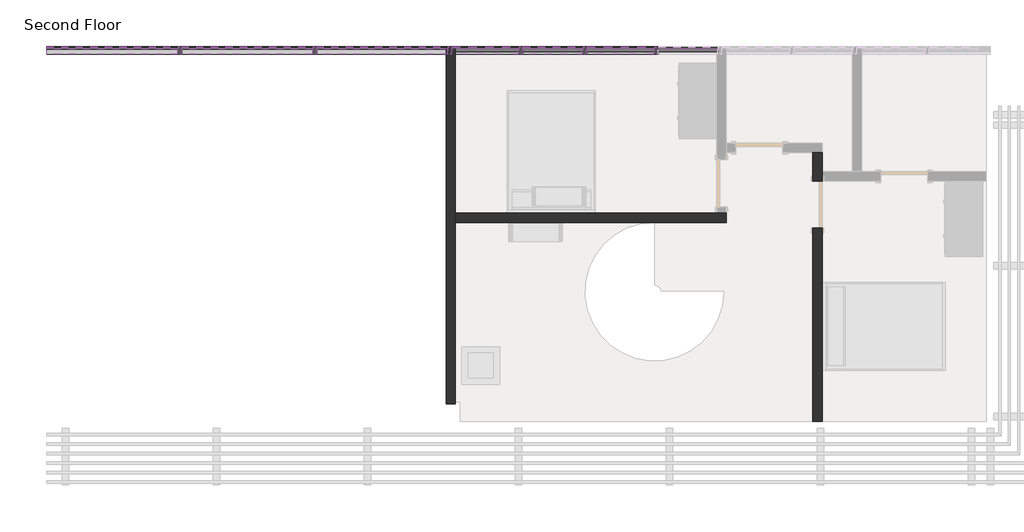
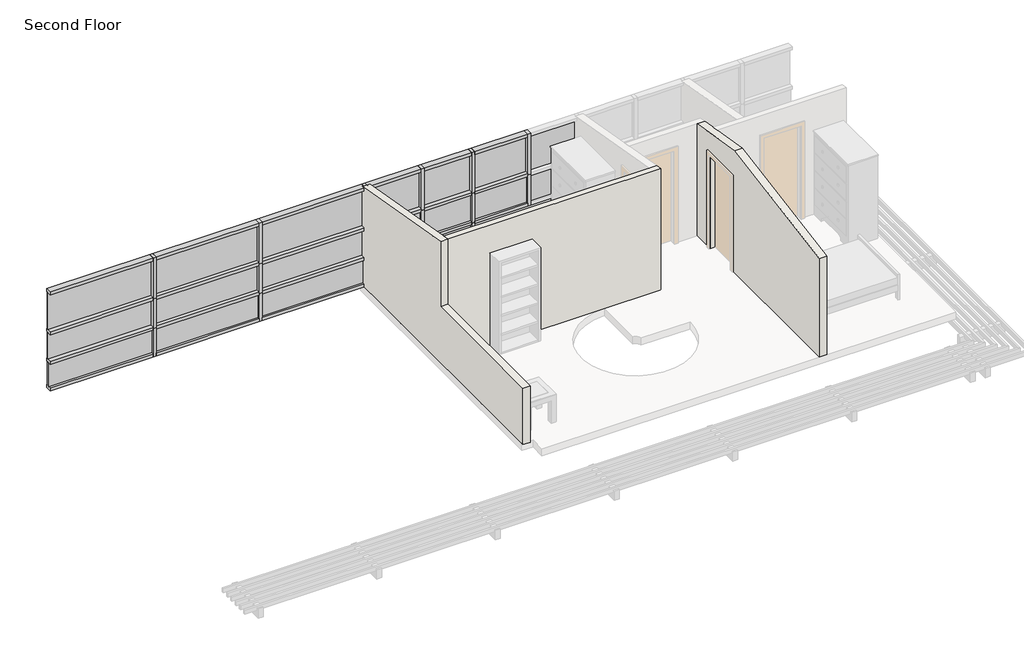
# One storey, part 1 of 2: 41 members, 19 plates, 3 walls.
"""IFC4 building model written with IfcOpenShell, lengths in millimetres."""

import ifcopenshell
import ifcopenshell.guid

model = None  # the IFC model being written
_history = None  # IfcOwnerHistory: only IFC2X3 demands one
_inside = {}  # id of a spatial element -> (the spatial element, [elements in it])
_under = {}  # id of a project, library or spatial element -> (it, [spatial elements below it])
_declared = {}  # id of a project -> (the project, [libraries it declares])
_typed = {}  # id of a type object -> (the type object, [elements of that type])
_made_of = {}  # id of a material, layer set ... -> (it, [elements and type objects made of it])


def new_model(schema):
    """Start an empty IFC model of exactly this schema.

    Asked for "IFC4X3", IfcOpenShell would pick the latest addendum, in which some entities
    have other attributes; the version numbers below select the first issue.
    IFC2X3 requires an IfcOwnerHistory on every rooted entity: one is made here for all.
    """
    global model, _history
    if schema == "IFC4X3":
        model = ifcopenshell.file(schema_version=(4, 3, 0, 0))
    else:
        model = ifcopenshell.file(schema=schema)
    _inside.clear()
    _under.clear()
    _declared.clear()
    _typed.clear()
    _made_of.clear()
    _history = None
    if model.schema == "IFC2X3":
        org = make("IfcOrganization", Name="unknown")
        user = make(
            "IfcPersonAndOrganization",
            ThePerson=make("IfcPerson", FamilyName="unknown"),
            TheOrganization=org,
        )
        app = make(
            "IfcApplication",
            ApplicationDeveloper=org,
            Version="unknown",
            ApplicationFullName="unknown",
            ApplicationIdentifier="unknown",
        )
        _history = make(
            "IfcOwnerHistory",
            OwningUser=user,
            OwningApplication=app,
            ChangeAction="ADDED",
            CreationDate=0,
        )
    return model


def make(cls, **values):
    """One entity of the class cls with the attributes given. An attribute that is None is left unset."""
    return model.create_entity(
        cls, **{name: value for name, value in values.items() if value is not None}
    )


def rooted(cls, **values):
    """An entity with a GlobalId (a new one), such as an element, a storey or a relation."""
    return make(cls, GlobalId=ifcopenshell.guid.new(), OwnerHistory=_history, **values)


def si_unit(unit_type, name, prefix=None):
    """IfcSIUnit, for example si_unit("LENGTHUNIT", "METRE", prefix="MILLI")."""
    return make("IfcSIUnit", UnitType=unit_type, Prefix=prefix, Name=name)


def assignment(units):
    """IfcUnitAssignment: the units of a project."""
    return None if units is None else make("IfcUnitAssignment", Units=units)


def point(xyz):
    """IfcCartesianPoint."""
    return None if xyz is None else make("IfcCartesianPoint", Coordinates=xyz)


def direction(xyz):
    """IfcDirection."""
    return None if xyz is None else make("IfcDirection", DirectionRatios=xyz)


def frame(location, z_axis=None, x_axis=None):
    """IfcAxis2Placement3D, a coordinate frame: its origin and axes. An axis left out is left unset."""
    return make(
        "IfcAxis2Placement3D",
        Location=point(location),
        Axis=direction(z_axis),
        RefDirection=direction(x_axis),
    )


def origin():
    """The frame at (0, 0, 0) with its axes left unset."""
    return frame((0.0, 0.0, 0.0))


def origin_with_axes():
    """The frame at (0, 0, 0) with the z axis (0, 0, 1) and the x axis (1, 0, 0) written out."""
    return frame((0.0, 0.0, 0.0), z_axis=(0.0, 0.0, 1.0), x_axis=(1.0, 0.0, 0.0))


def place(relative_to, where):
    """IfcLocalPlacement: puts the frame where relative to a parent placement (None: the world)."""
    return make(
        "IfcLocalPlacement", PlacementRelTo=relative_to, RelativePlacement=where
    )


def context(
    kind, dimensions, precision=None, world=None, true_north=None, identifier=None
):
    """IfcGeometricRepresentationContext, for example the 3D "Model" context."""
    return make(
        "IfcGeometricRepresentationContext",
        ContextIdentifier=identifier,
        ContextType=kind,
        CoordinateSpaceDimension=dimensions,
        Precision=precision,
        WorldCoordinateSystem=world,
        TrueNorth=true_north,
    )


def project(units=None, contexts=None):
    """IfcProject with its units and contexts."""
    return rooted(
        "IfcProject",
        Name="project",
        RepresentationContexts=contexts,
        UnitsInContext=assignment(units),
    )


def spatial(cls, under=None, at=None, **own):
    """A site, building, storey or space (cls), placed at a placement, below another one or the project."""
    s = rooted(cls, ObjectPlacement=at, **own)
    if under is not None:
        _under.setdefault(under.id(), (under, []))[1].append(s)
    return s


def polyline(points):
    """IfcPolyline through the points."""
    return make("IfcPolyline", Points=[point(p) for p in points])


def outline(outer, holes=None, kind="AREA"):
    """IfcArbitraryClosedProfileDef: a profile drawn as a closed curve; with holes, ...WithVoids."""
    if holes is None:
        return make("IfcArbitraryClosedProfileDef", ProfileType=kind, OuterCurve=outer)
    return make(
        "IfcArbitraryProfileDefWithVoids",
        ProfileType=kind,
        OuterCurve=outer,
        InnerCurves=holes,
    )


def extrude(swept, where, along, depth):
    """IfcExtrudedAreaSolid: the profile swept, set in the frame where, extruded along a direction by depth."""
    return make(
        "IfcExtrudedAreaSolid",
        SweptArea=swept,
        Position=where,
        ExtrudedDirection=direction(along),
        Depth=depth,
    )


def faces_of(points, faces, orient=None, outer=None):
    """IfcFace entities. A face is a list of loops; a loop is a list of indices into points, from 0.

    orient and outer hold one flag for each loop. By default every Orientation is true, the
    first loop of a face is its IfcFaceOuterBound and the others are IfcFaceBound.
    """
    made = []
    for i, loops in enumerate(faces):
        bounds = []
        for j, loop in enumerate(loops):
            is_outer = j == 0 if outer is None else outer[i][j]
            bounds.append(
                make(
                    "IfcFaceOuterBound" if is_outer else "IfcFaceBound",
                    Bound=make("IfcPolyLoop", Polygon=[points[k] for k in loop]),
                    Orientation=True if orient is None else orient[i][j],
                )
            )
        made.append(make("IfcFace", Bounds=bounds))
    return made


def faceted_brep(points, faces, orient=None, outer=None, voids=None):
    """IfcFacetedBrep: a solid bounded by flat faces; with voids (closed shells), ...WithVoids."""
    shared = [point(p) for p in points]
    hull = make("IfcClosedShell", CfsFaces=faces_of(shared, faces, orient, outer))
    if voids is None:
        return make("IfcFacetedBrep", Outer=hull)
    return make(
        "IfcFacetedBrepWithVoids",
        Outer=hull,
        Voids=[
            make(cls, CfsFaces=faces_of(shared, fs, o, b)) for cls, fs, o, b in voids
        ],
    )


def shape(context_of_items, identifier, shape_type, items):
    """IfcShapeRepresentation: the items that make up one representation, for example the "Body"."""
    return make(
        "IfcShapeRepresentation",
        ContextOfItems=context_of_items,
        RepresentationIdentifier=identifier,
        RepresentationType=shape_type,
        Items=items,
    )


def source(mapping_origin, context_of_items, identifier, shape_type, items):
    """IfcRepresentationMap: a shape defined once, which mapped items show again and again."""
    return make(
        "IfcRepresentationMap",
        MappingOrigin=mapping_origin,
        MappedRepresentation=shape(context_of_items, identifier, shape_type, items),
    )


def transform(
    local_origin,
    x_axis=None,
    y_axis=None,
    z_axis=None,
    scale=None,
    scale2=None,
    scale3=None,
    uniform=True,
):
    """IfcCartesianTransformationOperator3D, or its non-uniform kind. x_axis, y_axis, z_axis: its Axis1, 2, 3."""
    if uniform:
        return make(
            "IfcCartesianTransformationOperator3D",
            Axis1=direction(x_axis),
            Axis2=direction(y_axis),
            LocalOrigin=point(local_origin),
            Scale=scale,
            Axis3=direction(z_axis),
        )
    return make(
        "IfcCartesianTransformationOperator3DnonUniform",
        Axis1=direction(x_axis),
        Axis2=direction(y_axis),
        LocalOrigin=point(local_origin),
        Scale=scale,
        Axis3=direction(z_axis),
        Scale2=scale2,
        Scale3=scale3,
    )


def mapped(mapping_source, mapping_target):
    """IfcMappedItem: shows the shape of a source again, moved by a transform."""
    return make(
        "IfcMappedItem", MappingSource=mapping_source, MappingTarget=mapping_target
    )


def made_of(thing, what):
    """Note that an element or type object is made of a material, layer set ...; save() writes the relation."""
    if what is not None:
        _made_of.setdefault(what.id(), (what, []))[1].append(thing)
    return thing


def element(
    cls,
    number,
    at=None,
    inside=None,
    cuts=None,
    type_object=None,
    material=None,
    context=None,
    identifier="Body",
    shape_type=None,
    held_by="IfcProductDefinitionShape",
    body=None,
    shapes=None,
    **own,
):
    """One element of the class cls, such as IfcWall. Its Tag is "e" and its number.

    at: its placement. inside: the storey or other place that contains it. cuts: it is an
    opening in that element (IfcRelVoidsElement). A single representation is given by context,
    identifier, shape_type and body (its items); several are given by shapes. held_by: the class
    of the entity that holds the representations. save() writes the other relations.
    """
    e = rooted(cls, Tag="e%d" % number, ObjectPlacement=at, **own)
    if body is not None:
        shapes = [shape(context, identifier, shape_type, body)]
    if shapes is not None:
        e.Representation = make(held_by, Representations=shapes)
    if inside is not None:
        _inside.setdefault(inside.id(), (inside, []))[1].append(e)
    if cuts is not None:
        rooted(
            "IfcRelVoidsElement", RelatingBuildingElement=cuts, RelatedOpeningElement=e
        )
    if type_object is not None:
        _typed.setdefault(type_object.id(), (type_object, []))[1].append(e)
    return made_of(e, material)


def aggregate(whole, parts):
    """IfcRelAggregates: a whole, such as a stair, and the parts it consists of."""
    return rooted("IfcRelAggregates", RelatingObject=whole, RelatedObjects=parts)


def save(model, path):
    """Write the relations noted so far, then the file.

    IfcRelAggregates (storeys below a building ...), IfcRelContainedInSpatialStructure (elements
    in a storey), IfcRelDefinesByType, IfcRelAssociatesMaterial and IfcRelDeclares: one each for
    every whole, place, type object, material and project.
    """
    for whole, parts in _under.values():
        aggregate(whole, parts)
    for where, things in _inside.values():
        rooted(
            "IfcRelContainedInSpatialStructure",
            RelatedElements=things,
            RelatingStructure=where,
        )
    for kind, things in _typed.values():
        rooted("IfcRelDefinesByType", RelatedObjects=things, RelatingType=kind)
    for what, things in _made_of.values():
        rooted("IfcRelAssociatesMaterial", RelatedObjects=things, RelatingMaterial=what)
    for by, libraries in _declared.values():
        rooted("IfcRelDeclares", RelatingContext=by, RelatedDefinitions=libraries)
    model.write(path)


def rectangular_mullion_rectangular_mullion_1_6e77e263(model_context):
    return source(origin(), model_context, "Body", "SweptSolid", [
        extrude(outline(polyline([(31.75, 63.5), (31.75, -63.5), (-31.75, -63.5), (-31.75, 63.5), (31.75, 63.5)])), frame((0.0, 0.0, -609.6), z_axis=(0.0, 0.0, 1.0), x_axis=(1.0, 0.0, 0.0)), (0.0, 0.0, 1.0), 609.6),
    ])


def rectangular_mullion_rectangular_mullion_1_51170729(model_context):
    return source(origin(), model_context, "Body", "SweptSolid", [
        extrude(outline(polyline([(31.75, 63.5), (31.75, -63.5), (-31.75, -63.5), (-31.75, 63.5), (31.75, 63.5)])), frame((0.0, 0.0, -641.35), z_axis=(0.0, 0.0, 1.0), x_axis=(1.0, 0.0, 0.0)), (0.0, 0.0, 1.0), 641.35),
    ])


def rectangular_mullion_rectangular_mullion_1_02de63bf(model_context):
    return source(origin(), model_context, "Body", "SweptSolid", [
        extrude(outline(polyline([(31.75, 63.5), (31.75, -63.5), (-31.75, -63.5), (-31.75, 63.5), (31.75, 63.5)])), frame((0.0, 0.0, -673.1), z_axis=(0.0, 0.0, 1.0), x_axis=(1.0, 0.0, 0.0)), (0.0, 0.0, 1.0), 673.1),
    ])


def rectangular_mullion_rectangular_mullion_1_16d8b8eb(model_context):
    return source(origin(), model_context, "Body", "SweptSolid", [
        extrude(outline(polyline([(31.75, 63.5), (31.75, -63.5), (-31.75, -63.5), (-31.75, 63.5), (31.75, 63.5)])), frame((0.0, 0.0, -1085.1812347), z_axis=(0.0, 0.0, 1.0), x_axis=(1.0, 0.0, 0.0)), (0.0, 0.0, 1.0), 1085.1812347),
    ])


def rectangular_mullion_rectangular_mullion_1_bd9471c7(model_context):
    return source(origin(), model_context, "Body", "SweptSolid", [
        extrude(outline(polyline([(31.75, 63.5), (31.75, -63.5), (-31.75, -63.5), (-31.75, 63.5), (31.75, 63.5)])), frame((0.0, 0.0, -968.2083536), z_axis=(0.0, 0.0, 1.0), x_axis=(1.0, 0.0, 0.0)), (0.0, 0.0, 1.0), 968.2083536),
    ])


def rectangular_mullion_rectangular_mullion_1_216b7e31(model_context):
    return source(origin(), model_context, "Body", "SweptSolid", [
        extrude(outline(polyline([(31.75, 63.5), (31.75, -63.5), (-31.75, -63.5), (-31.75, 63.5), (31.75, 63.5)])), frame((0.0, 0.0, -1092.8202178), z_axis=(0.0, 0.0, 1.0), x_axis=(1.0, 0.0, 0.0)), (0.0, 0.0, 1.0), 1092.8202178),
    ])


def rectangular_mullion_rectangular_mullion_1_ef30733b(model_context):
    return source(origin(), model_context, "Body", "SweptSolid", [
        extrude(outline(polyline([(0.0, 63.5), (0.0, -63.5), (-63.5, -63.5), (-63.5, 63.5), (0.0, 63.5)])), frame((0.0, 0.0, -2116.8895886), z_axis=(0.0, 0.0, 1.0), x_axis=(1.0, 0.0, 0.0)), (0.0, 0.0, 1.0), 2116.8895886),
    ])


def rectangular_mullion_rectangular_mullion_1_e4518843(model_context):
    return source(origin(), model_context, "Body", "SweptSolid", [
        extrude(outline(polyline([(0.0, 63.5), (0.0, -63.5), (-63.5, -63.5), (-63.5, 63.5), (0.0, 63.5)])), frame((0.0, 0.0, -2116.8895883), z_axis=(0.0, 0.0, 1.0), x_axis=(1.0, 0.0, 0.0)), (0.0, 0.0, 1.0), 2116.8895883),
    ])


def rectangular_mullion_rectangular_mullion_1_31188fa1(model_context):
    return source(origin(), model_context, "Body", "SweptSolid", [
        extrude(outline(polyline([(0.0, 63.5), (0.0, -63.5), (-63.5, -63.5), (-63.5, 63.5), (0.0, 63.5)])), frame((0.0, 0.0, -1116.9312347), z_axis=(0.0, 0.0, 1.0), x_axis=(1.0, 0.0, 0.0)), (0.0, 0.0, 1.0), 1116.9312347),
    ])


def rectangular_mullion_rectangular_mullion_1_6d278577(model_context):
    return source(origin(), model_context, "Body", "SweptSolid", [
        extrude(outline(polyline([(0.0, 63.5), (0.0, -63.5), (-63.5, -63.5), (-63.5, 63.5), (0.0, 63.5)])), frame((0.0, 0.0, -1124.5702178), z_axis=(0.0, 0.0, 1.0), x_axis=(1.0, 0.0, 0.0)), (0.0, 0.0, 1.0), 1124.5702178),
    ])


def rectangular_mullion_rectangular_mullion_1_6c981bfd(model_context):
    return source(origin(), model_context, "Body", "SweptSolid", [
        extrude(outline(polyline([(0.0, 63.5), (0.0, -63.5), (-63.5, -63.5), (-63.5, 63.5), (0.0, 63.5)])), frame((0.0, 0.0, -992.3193705), z_axis=(0.0, 0.0, 1.0), x_axis=(1.0, 0.0, 0.0)), (0.0, 0.0, 1.0), 992.3193705),
    ])


def rectangular_mullion_rectangular_mullion_1_10727e02(model_context):
    return source(origin(), model_context, "Body", "SweptSolid", [
        extrude(outline(polyline([(0.0, 63.5), (0.0, -63.5), (-63.5, -63.5), (-63.5, 63.5), (0.0, 63.5)])), frame((0.0, 0.0, -999.9583536), z_axis=(0.0, 0.0, 1.0), x_axis=(1.0, 0.0, 0.0)), (0.0, 0.0, 1.0), 999.9583536),
    ])


def rectangular_mullion_rectangular_mullion_1_3e036e6b(model_context):
    return source(origin(), model_context, "Body", "SweptSolid", [
        extrude(outline(polyline([(0.0, 63.5), (0.0, -63.5), (-63.5, -63.5), (-63.5, 63.5), (0.0, 63.5)])), frame((0.0, 0.0, -1085.1812347), z_axis=(0.0, 0.0, 1.0), x_axis=(1.0, 0.0, 0.0)), (0.0, 0.0, 1.0), 1085.1812347),
    ])


def rectangular_mullion_rectangular_mullion_1_4bdca6fb(model_context):
    return source(origin(), model_context, "Body", "SweptSolid", [
        extrude(outline(polyline([(0.0, 63.5), (0.0, -63.5), (-63.5, -63.5), (-63.5, 63.5), (0.0, 63.5)])), frame((0.0, 0.0, -968.2083536), z_axis=(0.0, 0.0, 1.0), x_axis=(1.0, 0.0, 0.0)), (0.0, 0.0, 1.0), 968.2083536),
    ])


def rectangular_mullion_rectangular_mullion_1_c00fc970(model_context):
    return source(origin(), model_context, "Body", "SweptSolid", [
        extrude(outline(polyline([(0.0, 63.5), (0.0, -63.5), (-63.5, -63.5), (-63.5, 63.5), (0.0, 63.5)])), frame((0.0, 0.0, -1092.8202178), z_axis=(0.0, 0.0, 1.0), x_axis=(1.0, 0.0, 0.0)), (0.0, 0.0, 1.0), 1092.8202178),
    ])


def rectangular_mullion_rectangular_mullion_1_eea3e301(model_context):
    return source(origin(), model_context, "Body", "SweptSolid", [
        extrude(outline(polyline([(31.75, 63.5), (31.75, -63.5), (-31.75, -63.5), (-31.75, 63.5), (31.75, 63.5)])), frame((0.0, 0.0, -2116.8895886), z_axis=(0.0, 0.0, 1.0), x_axis=(1.0, 0.0, 0.0)), (0.0, 0.0, 1.0), 2116.8895886),
    ])


def rectangular_mullion_rectangular_mullion_1_455339bc(model_context):
    return source(origin(), model_context, "Body", "SweptSolid", [
        extrude(outline(polyline([(31.75, 63.5), (31.75, -63.5), (-31.75, -63.5), (-31.75, 63.5), (31.75, 63.5)])), frame((0.0, 0.0, -2116.8895883), z_axis=(0.0, 0.0, 1.0), x_axis=(1.0, 0.0, 0.0)), (0.0, 0.0, 1.0), 2116.8895883),
    ])


def rectangular_mullion_rectangular_mullion_1_8e9d10e0(model_context):
    return source(origin(), model_context, "Body", "SweptSolid", [
        extrude(outline(polyline([(31.75, 63.5), (31.75, -63.5), (-31.75, -63.5), (-31.75, 63.5), (31.75, 63.5)])), frame((0.0, 0.0, -893.8467633), z_axis=(0.0, 0.0, 1.0), x_axis=(1.0, 0.0, 0.0)), (0.0, 0.0, 1.0), 893.8467633),
    ])


def system_panel_glazed_11a32600(model_context):
    return source(origin(), model_context, "Body", "SweptSolid", [
        extrude(outline(polyline([(1058.4447943, 19.05), (-1058.4447943, 19.05), (-1058.4447943, 44.45), (1058.4447943, 44.45), (1058.4447943, 19.05)])), origin_with_axes(), (0.0, 0.0, 1.0), 577.85),
    ])


def system_panel_glazed_48cb03e7(model_context):
    return source(origin(), model_context, "Body", "SweptSolid", [
        extrude(outline(polyline([(1058.4447943, 19.05), (-1058.4447943, 19.05), (-1058.4447943, 44.45), (1058.4447943, 44.45), (1058.4447943, 19.05)])), origin_with_axes(), (0.0, 0.0, 1.0), 798.5967633),
    ])


def system_panel_glazed_32ae429f(model_context):
    return source(origin(), model_context, "Body", "SweptSolid", [
        extrude(outline(polyline([(542.5906174, 19.05), (-542.5906174, 19.05), (-542.5906174, 44.45), (542.5906174, 44.45), (542.5906174, 19.05)])), origin_with_axes(), (0.0, 0.0, 1.0), 798.5967633),
    ])


def system_panel_glazed_22fd2b86(model_context):
    return source(origin(), model_context, "Body", "SweptSolid", [
        extrude(outline(polyline([(484.1041768, 19.05), (-484.1041768, 19.05), (-484.1041768, 44.45), (484.1041768, 44.45), (484.1041768, 19.05)])), origin_with_axes(), (0.0, 0.0, 1.0), 798.5967633),
    ])


def system_panel_glazed_0dba37f9(model_context):
    return source(origin(), model_context, "Body", "SweptSolid", [
        extrude(outline(polyline([(546.4101089, 19.05), (-546.4101089, 19.05), (-546.4101089, 44.45), (546.4101089, 44.45), (546.4101089, 19.05)])), origin_with_axes(), (0.0, 0.0, 1.0), 798.5967633),
    ])


def system_panel_glazed_d97c3899(model_context):
    return source(origin(), model_context, "Body", "SweptSolid", [
        extrude(outline(polyline([(480.2846853, 19.05), (-480.2846853, 19.05), (-480.2846853, 44.45), (480.2846853, 44.45), (480.2846853, 19.05)])), origin_with_axes(), (0.0, 0.0, 1.0), 798.5967633),
    ])


def system_panel_solid_black_d4f84b84(model_context):
    return source(origin(), model_context, "Body", "SweptSolid", [
        extrude(outline(polyline([(542.5906174, -19.05), (-542.5906174, -19.05), (-542.5906174, 44.45), (542.5906174, 44.45), (542.5906174, -19.05)])), origin_with_axes(), (0.0, 0.0, 1.0), 577.85),
    ])


def system_panel_solid_blue_a7f4d1c6(model_context):
    return source(origin(), model_context, "Body", "SweptSolid", [
        extrude(outline(polyline([(0.0, -1058.4447942), (0.0, 58.4864406), (0.0, 1058.4447942), (514.35, 1058.4447942), (514.35, 58.4864406), (514.35, -1058.4447942), (0.0, -1058.4447942)])), frame((0.0, -19.05, 0.0), z_axis=(0.0, 1.0, 0.0), x_axis=(0.0, 0.0, 1.0)), (0.0, 0.0, 1.0), 63.5),
    ])


def system_panel_solid_white_938f3899(model_context):
    return source(origin(), model_context, "Body", "SweptSolid", [
        extrude(outline(polyline([(1058.4447943, -19.05), (-1058.4447943, -19.05), (-1058.4447943, 44.45), (1058.4447943, 44.45), (1058.4447943, -19.05)])), origin_with_axes(), (0.0, 0.0, 1.0), 514.35),
    ])


def system_panel_solid_white_17433e69(model_context):
    return source(origin(), model_context, "Body", "SweptSolid", [
        extrude(outline(polyline([(0.0, -1058.4447942), (0.0, 66.1254237), (0.0, 1058.4447942), (514.35, 1058.4447942), (514.35, 66.1254237), (514.35, -1058.4447942), (0.0, -1058.4447942)])), frame((0.0, -19.05, 0.0), z_axis=(0.0, 1.0, 0.0), x_axis=(0.0, 0.0, 1.0)), (0.0, 0.0, 1.0), 63.5),
    ])


def system_panel_solid_white_50add86f(model_context):
    return source(origin(), model_context, "Body", "SweptSolid", [
        extrude(outline(polyline([(484.1041768, -19.05), (-484.1041768, -19.05), (-484.1041768, 44.45), (484.1041768, 44.45), (484.1041768, -19.05)])), origin_with_axes(), (0.0, 0.0, 1.0), 577.85),
    ])


def system_panel_solid_white_58560f43(model_context):
    return source(origin(), model_context, "Body", "SweptSolid", [
        extrude(outline(polyline([(546.4101089, -19.05), (-546.4101089, -19.05), (-546.4101089, 44.45), (546.4101089, 44.45), (546.4101089, -19.05)])), origin_with_axes(), (0.0, 0.0, 1.0), 577.85),
    ])


def system_panel_solid_white_36fd709e(model_context):
    return source(origin(), model_context, "Body", "SweptSolid", [
        extrude(outline(polyline([(480.2846853, -19.05), (-480.2846853, -19.05), (-480.2846853, 44.45), (480.2846853, 44.45), (480.2846853, -19.05)])), origin_with_axes(), (0.0, 0.0, 1.0), 577.85),
    ])


model = new_model("IFC4")

# Units and contexts
model_context = context("Model", 3, world=origin())
ifc_project = project(units=[si_unit("LENGTHUNIT", "METRE", prefix="MILLI")], contexts=[model_context])

# Site, building, storey
site = spatial("IfcSite", under=ifc_project)
building = spatial("IfcBuilding", under=site)
storey = spatial("IfcBuildingStorey", under=building, Name="Second Floor", Elevation=3657.6)

# Members
placement = place(None, origin())
rectangular_mullion_rectangular_mullion_1_shape = rectangular_mullion_rectangular_mullion_1_6e77e263(model_context)
element("IfcMember", 1, ObjectType="Rectangular Mullion : Rectangular Mullion 1", at=placement, inside=storey, context=model_context, shape_type="MappedRepresentation", body=[
    mapped(rectangular_mullion_rectangular_mullion_1_shape, transform((-4167.553004, 12132.8400612, 3657.6), x_axis=(1.0, 0.0, 0.0), y_axis=(0.0, -1.0, 0.0), z_axis=(0.0, 0.0, -1.0))),
])
element("IfcMember", 2, ObjectType="Rectangular Mullion : Rectangular Mullion 1", at=placement, inside=storey, context=model_context, shape_type="MappedRepresentation", body=[
    mapped(rectangular_mullion_rectangular_mullion_1_shape, transform((-1987.1634157, 12132.8400612, 3657.6), x_axis=(1.0, 0.0, 0.0), y_axis=(0.0, -1.0, 0.0), z_axis=(0.0, 0.0, -1.0))),
])
element("IfcMember", 3, ObjectType="Rectangular Mullion : Rectangular Mullion 1", at=placement, inside=storey, context=model_context, shape_type="MappedRepresentation", body=[
    mapped(rectangular_mullion_rectangular_mullion_1_shape, transform((-8528.3321807, 12132.8400612, 3657.6), x_axis=(1.0, 0.0, 0.0), y_axis=(0.0, -1.0, 0.0), z_axis=(0.0, 0.0, -1.0))),
])
element("IfcMember", 4, ObjectType="Rectangular Mullion : Rectangular Mullion 1", at=placement, inside=storey, context=model_context, shape_type="MappedRepresentation", body=[
    mapped(rectangular_mullion_rectangular_mullion_1_shape, transform((-6347.9425924, 12132.8400612, 3657.6), x_axis=(1.0, 0.0, 0.0), y_axis=(0.0, -1.0, 0.0), z_axis=(0.0, 0.0, -1.0))),
])
rectangular_mullion_rectangular_mullion_1_2_shape = rectangular_mullion_rectangular_mullion_1_51170729(model_context)
element("IfcMember", 5, ObjectType="Rectangular Mullion : Rectangular Mullion 1", at=placement, inside=storey, context=model_context, shape_type="MappedRepresentation", body=[
    mapped(rectangular_mullion_rectangular_mullion_1_2_shape, transform((-4167.553004, 12132.8400612, 4267.2), x_axis=(1.0, 0.0, 0.0), y_axis=(0.0, -1.0, 0.0), z_axis=(0.0, 0.0, -1.0))),
])
element("IfcMember", 6, ObjectType="Rectangular Mullion : Rectangular Mullion 1", at=placement, inside=storey, context=model_context, shape_type="MappedRepresentation", body=[
    mapped(rectangular_mullion_rectangular_mullion_1_2_shape, transform((-1987.1634157, 12132.8400612, 4267.2), x_axis=(1.0, 0.0, 0.0), y_axis=(0.0, -1.0, 0.0), z_axis=(0.0, 0.0, -1.0))),
])
element("IfcMember", 7, ObjectType="Rectangular Mullion : Rectangular Mullion 1", at=placement, inside=storey, context=model_context, shape_type="MappedRepresentation", body=[
    mapped(rectangular_mullion_rectangular_mullion_1_2_shape, transform((-8528.3321807, 12132.8400612, 4267.2), x_axis=(1.0, 0.0, 0.0), y_axis=(0.0, -1.0, 0.0), z_axis=(0.0, 0.0, -1.0))),
])
element("IfcMember", 8, ObjectType="Rectangular Mullion : Rectangular Mullion 1", at=placement, inside=storey, context=model_context, shape_type="MappedRepresentation", body=[
    mapped(rectangular_mullion_rectangular_mullion_1_2_shape, transform((-6347.9425924, 12132.8400612, 4267.2), x_axis=(1.0, 0.0, 0.0), y_axis=(0.0, -1.0, 0.0), z_axis=(0.0, 0.0, -1.0))),
])
rectangular_mullion_rectangular_mullion_1_3_shape = rectangular_mullion_rectangular_mullion_1_02de63bf(model_context)
element("IfcMember", 9, ObjectType="Rectangular Mullion : Rectangular Mullion 1", at=placement, inside=storey, context=model_context, shape_type="MappedRepresentation", body=[
    mapped(rectangular_mullion_rectangular_mullion_1_3_shape, transform((-3018.8717693, 12132.8400612, 4235.45), x_axis=(1.0, 0.0, 0.0), y_axis=(0.0, -1.0, 0.0), z_axis=(0.0, 0.0, -1.0))),
])
element("IfcMember", 10, ObjectType="Rectangular Mullion : Rectangular Mullion 1", at=placement, inside=storey, context=model_context, shape_type="MappedRepresentation", body=[
    mapped(rectangular_mullion_rectangular_mullion_1_3_shape, transform((-830.8431979, 12132.8400612, 4235.45), x_axis=(1.0, 0.0, 0.0), y_axis=(0.0, -1.0, 0.0), z_axis=(0.0, 0.0, -1.0))),
])
rectangular_mullion_rectangular_mullion_1_4_shape = rectangular_mullion_rectangular_mullion_1_16d8b8eb(model_context)
element("IfcMember", 11, ObjectType="Rectangular Mullion : Rectangular Mullion 1", at=placement, inside=storey, context=model_context, shape_type="MappedRepresentation", body=[
    mapped(rectangular_mullion_rectangular_mullion_1_4_shape, transform((-3050.6217693, 12132.8400612, 4267.2), x_axis=(0.0, 0.0, 1.0), y_axis=(0.0, -1.0, 0.0), z_axis=(1.0, 0.0, 0.0))),
])
element("IfcMember", 12, ObjectType="Rectangular Mullion : Rectangular Mullion 1", at=placement, inside=storey, context=model_context, shape_type="MappedRepresentation", body=[
    mapped(rectangular_mullion_rectangular_mullion_1_4_shape, transform((-3050.6217693, 12132.8400612, 4908.55), x_axis=(0.0, 0.0, 1.0), y_axis=(0.0, -1.0, 0.0), z_axis=(1.0, 0.0, 0.0))),
])
rectangular_mullion_rectangular_mullion_1_5_shape = rectangular_mullion_rectangular_mullion_1_bd9471c7(model_context)
element("IfcMember", 13, ObjectType="Rectangular Mullion : Rectangular Mullion 1", at=placement, inside=storey, context=model_context, shape_type="MappedRepresentation", body=[
    mapped(rectangular_mullion_rectangular_mullion_1_5_shape, transform((-2018.9134157, 12132.8400612, 4267.2), x_axis=(0.0, 0.0, 1.0), y_axis=(0.0, -1.0, 0.0), z_axis=(1.0, 0.0, 0.0))),
])
element("IfcMember", 14, ObjectType="Rectangular Mullion : Rectangular Mullion 1", at=placement, inside=storey, context=model_context, shape_type="MappedRepresentation", body=[
    mapped(rectangular_mullion_rectangular_mullion_1_5_shape, transform((-2018.9134157, 12132.8400612, 4908.55), x_axis=(0.0, 0.0, 1.0), y_axis=(0.0, -1.0, 0.0), z_axis=(1.0, 0.0, 0.0))),
])
rectangular_mullion_rectangular_mullion_1_6_shape = rectangular_mullion_rectangular_mullion_1_216b7e31(model_context)
element("IfcMember", 15, ObjectType="Rectangular Mullion : Rectangular Mullion 1", at=placement, inside=storey, context=model_context, shape_type="MappedRepresentation", body=[
    mapped(rectangular_mullion_rectangular_mullion_1_6_shape, transform((-862.5931979, 12132.8400612, 4267.2), x_axis=(0.0, 0.0, 1.0), y_axis=(0.0, -1.0, 0.0), z_axis=(1.0, 0.0, 0.0))),
])
element("IfcMember", 16, ObjectType="Rectangular Mullion : Rectangular Mullion 1", at=placement, inside=storey, context=model_context, shape_type="MappedRepresentation", body=[
    mapped(rectangular_mullion_rectangular_mullion_1_6_shape, transform((-862.5931979, 12132.8400612, 4908.55), x_axis=(0.0, 0.0, 1.0), y_axis=(0.0, -1.0, 0.0), z_axis=(1.0, 0.0, 0.0))),
])
rectangular_mullion_rectangular_mullion_1_7_shape = rectangular_mullion_rectangular_mullion_1_ef30733b(model_context)
element("IfcMember", 17, ObjectType="Rectangular Mullion : Rectangular Mullion 1", at=placement, inside=storey, context=model_context, shape_type="MappedRepresentation", body=[
    mapped(rectangular_mullion_rectangular_mullion_1_7_shape, transform((-10676.9717693, 12132.8400612, 3657.6), x_axis=(0.0, 0.0, -1.0), y_axis=(0.0, -1.0, 0.0), z_axis=(-1.0, 0.0, 0.0))),
])
rectangular_mullion_rectangular_mullion_1_8_shape = rectangular_mullion_rectangular_mullion_1_e4518843(model_context)
element("IfcMember", 18, ObjectType="Rectangular Mullion : Rectangular Mullion 1", at=placement, inside=storey, context=model_context, shape_type="MappedRepresentation", body=[
    mapped(rectangular_mullion_rectangular_mullion_1_8_shape, transform((-8496.5821807, 12132.8400612, 3657.6), x_axis=(0.0, 0.0, -1.0), y_axis=(0.0, -1.0, 0.0), z_axis=(-1.0, 0.0, 0.0))),
])
element("IfcMember", 19, ObjectType="Rectangular Mullion : Rectangular Mullion 1", at=placement, inside=storey, context=model_context, shape_type="MappedRepresentation", body=[
    mapped(rectangular_mullion_rectangular_mullion_1_8_shape, transform((-6316.1925924, 12132.8400612, 3657.6), x_axis=(0.0, 0.0, -1.0), y_axis=(0.0, -1.0, 0.0), z_axis=(-1.0, 0.0, 0.0))),
])
rectangular_mullion_rectangular_mullion_1_9_shape = rectangular_mullion_rectangular_mullion_1_31188fa1(model_context)
element("IfcMember", 20, ObjectType="Rectangular Mullion : Rectangular Mullion 1", at=placement, inside=storey, context=model_context, shape_type="MappedRepresentation", body=[
    mapped(rectangular_mullion_rectangular_mullion_1_9_shape, transform((-4135.803004, 12132.8400612, 3657.6), x_axis=(0.0, 0.0, -1.0), y_axis=(0.0, -1.0, 0.0), z_axis=(-1.0, 0.0, 0.0))),
])
rectangular_mullion_rectangular_mullion_1_10_shape = rectangular_mullion_rectangular_mullion_1_6d278577(model_context)
element("IfcMember", 21, ObjectType="Rectangular Mullion : Rectangular Mullion 1", at=placement, inside=storey, context=model_context, shape_type="MappedRepresentation", body=[
    mapped(rectangular_mullion_rectangular_mullion_1_10_shape, transform((-1955.4134157, 12132.8400612, 3657.6), x_axis=(0.0, 0.0, -1.0), y_axis=(0.0, -1.0, 0.0), z_axis=(-1.0, 0.0, 0.0))),
])
rectangular_mullion_rectangular_mullion_1_11_shape = rectangular_mullion_rectangular_mullion_1_6c981bfd(model_context)
element("IfcMember", 22, ObjectType="Rectangular Mullion : Rectangular Mullion 1", at=placement, inside=storey, context=model_context, shape_type="MappedRepresentation", body=[
    mapped(rectangular_mullion_rectangular_mullion_1_11_shape, transform((-830.8431979, 12132.8400612, 3657.6), x_axis=(0.0, 0.0, -1.0), y_axis=(0.0, -1.0, 0.0), z_axis=(-1.0, 0.0, 0.0))),
])
rectangular_mullion_rectangular_mullion_1_12_shape = rectangular_mullion_rectangular_mullion_1_10727e02(model_context)
element("IfcMember", 23, ObjectType="Rectangular Mullion : Rectangular Mullion 1", at=placement, inside=storey, context=model_context, shape_type="MappedRepresentation", body=[
    mapped(rectangular_mullion_rectangular_mullion_1_12_shape, transform((-3018.8717693, 12132.8400612, 3657.6), x_axis=(0.0, 0.0, -1.0), y_axis=(0.0, -1.0, 0.0), z_axis=(-1.0, 0.0, 0.0))),
])
element("IfcMember", 24, ObjectType="Rectangular Mullion : Rectangular Mullion 1", at=placement, inside=storey, context=model_context, shape_type="MappedRepresentation", body=[
    mapped(rectangular_mullion_rectangular_mullion_1_7_shape, transform((-8560.0821807, 12132.8400612, 5802.3967633), x_axis=(0.0, 0.0, 1.0), y_axis=(0.0, -1.0, 0.0), z_axis=(1.0, 0.0, 0.0))),
])
element("IfcMember", 25, ObjectType="Rectangular Mullion : Rectangular Mullion 1", at=placement, inside=storey, context=model_context, shape_type="MappedRepresentation", body=[
    mapped(rectangular_mullion_rectangular_mullion_1_8_shape, transform((-6379.6925924, 12132.8400612, 5802.3967633), x_axis=(0.0, 0.0, 1.0), y_axis=(0.0, -1.0, 0.0), z_axis=(1.0, 0.0, 0.0))),
])
element("IfcMember", 26, ObjectType="Rectangular Mullion : Rectangular Mullion 1", at=placement, inside=storey, context=model_context, shape_type="MappedRepresentation", body=[
    mapped(rectangular_mullion_rectangular_mullion_1_8_shape, transform((-4199.303004, 12132.8400612, 5802.3967633), x_axis=(0.0, 0.0, 1.0), y_axis=(0.0, -1.0, 0.0), z_axis=(1.0, 0.0, 0.0))),
])
rectangular_mullion_rectangular_mullion_1_13_shape = rectangular_mullion_rectangular_mullion_1_3e036e6b(model_context)
element("IfcMember", 27, ObjectType="Rectangular Mullion : Rectangular Mullion 1", at=placement, inside=storey, context=model_context, shape_type="MappedRepresentation", body=[
    mapped(rectangular_mullion_rectangular_mullion_1_13_shape, transform((-3050.6217693, 12132.8400612, 5802.3967633), x_axis=(0.0, 0.0, 1.0), y_axis=(0.0, -1.0, 0.0), z_axis=(1.0, 0.0, 0.0))),
])
rectangular_mullion_rectangular_mullion_1_14_shape = rectangular_mullion_rectangular_mullion_1_4bdca6fb(model_context)
element("IfcMember", 28, ObjectType="Rectangular Mullion : Rectangular Mullion 1", at=placement, inside=storey, context=model_context, shape_type="MappedRepresentation", body=[
    mapped(rectangular_mullion_rectangular_mullion_1_14_shape, transform((-2018.9134157, 12132.8400612, 5802.3967633), x_axis=(0.0, 0.0, 1.0), y_axis=(0.0, -1.0, 0.0), z_axis=(1.0, 0.0, 0.0))),
])
rectangular_mullion_rectangular_mullion_1_15_shape = rectangular_mullion_rectangular_mullion_1_c00fc970(model_context)
element("IfcMember", 29, ObjectType="Rectangular Mullion : Rectangular Mullion 1", at=placement, inside=storey, context=model_context, shape_type="MappedRepresentation", body=[
    mapped(rectangular_mullion_rectangular_mullion_1_15_shape, transform((-862.5931979, 12132.8400612, 5802.3967633), x_axis=(0.0, 0.0, 1.0), y_axis=(0.0, -1.0, 0.0), z_axis=(1.0, 0.0, 0.0))),
])
rectangular_mullion_rectangular_mullion_1_16_shape = rectangular_mullion_rectangular_mullion_1_eea3e301(model_context)
element("IfcMember", 30, ObjectType="Rectangular Mullion : Rectangular Mullion 1", at=placement, inside=storey, context=model_context, shape_type="MappedRepresentation", body=[
    mapped(rectangular_mullion_rectangular_mullion_1_16_shape, transform((-8560.0821807, 12132.8400612, 4267.2), x_axis=(0.0, 0.0, 1.0), y_axis=(0.0, -1.0, 0.0), z_axis=(1.0, 0.0, 0.0))),
])
element("IfcMember", 31, ObjectType="Rectangular Mullion : Rectangular Mullion 1", at=placement, inside=storey, context=model_context, shape_type="MappedRepresentation", body=[
    mapped(rectangular_mullion_rectangular_mullion_1_16_shape, transform((-8560.0821807, 12132.8400612, 4908.55), x_axis=(0.0, 0.0, 1.0), y_axis=(0.0, -1.0, 0.0), z_axis=(1.0, 0.0, 0.0))),
])
rectangular_mullion_rectangular_mullion_1_17_shape = rectangular_mullion_rectangular_mullion_1_455339bc(model_context)
element("IfcMember", 32, ObjectType="Rectangular Mullion : Rectangular Mullion 1", at=placement, inside=storey, context=model_context, shape_type="MappedRepresentation", body=[
    mapped(rectangular_mullion_rectangular_mullion_1_17_shape, transform((-4199.303004, 12132.8400612, 4267.2), x_axis=(0.0, 0.0, 1.0), y_axis=(0.0, -1.0, 0.0), z_axis=(1.0, 0.0, 0.0))),
])
element("IfcMember", 33, ObjectType="Rectangular Mullion : Rectangular Mullion 1", at=placement, inside=storey, context=model_context, shape_type="MappedRepresentation", body=[
    mapped(rectangular_mullion_rectangular_mullion_1_17_shape, transform((-6379.6925924, 12132.8400612, 4267.2), x_axis=(0.0, 0.0, 1.0), y_axis=(0.0, -1.0, 0.0), z_axis=(1.0, 0.0, 0.0))),
])
element("IfcMember", 34, ObjectType="Rectangular Mullion : Rectangular Mullion 1", at=placement, inside=storey, context=model_context, shape_type="MappedRepresentation", body=[
    mapped(rectangular_mullion_rectangular_mullion_1_17_shape, transform((-4199.303004, 12132.8400612, 4908.55), x_axis=(0.0, 0.0, 1.0), y_axis=(0.0, -1.0, 0.0), z_axis=(1.0, 0.0, 0.0))),
])
element("IfcMember", 35, ObjectType="Rectangular Mullion : Rectangular Mullion 1", at=placement, inside=storey, context=model_context, shape_type="MappedRepresentation", body=[
    mapped(rectangular_mullion_rectangular_mullion_1_17_shape, transform((-6379.6925924, 12132.8400612, 4908.55), x_axis=(0.0, 0.0, 1.0), y_axis=(0.0, -1.0, 0.0), z_axis=(1.0, 0.0, 0.0))),
])
rectangular_mullion_rectangular_mullion_1_18_shape = rectangular_mullion_rectangular_mullion_1_8e9d10e0(model_context)
element("IfcMember", 36, ObjectType="Rectangular Mullion : Rectangular Mullion 1", at=placement, inside=storey, context=model_context, shape_type="MappedRepresentation", body=[
    mapped(rectangular_mullion_rectangular_mullion_1_18_shape, transform((-4167.553004, 12132.8400612, 4908.55), x_axis=(1.0, 0.0, 0.0), y_axis=(0.0, -1.0, 0.0), z_axis=(0.0, 0.0, -1.0))),
])
element("IfcMember", 37, ObjectType="Rectangular Mullion : Rectangular Mullion 1", at=placement, inside=storey, context=model_context, shape_type="MappedRepresentation", body=[
    mapped(rectangular_mullion_rectangular_mullion_1_18_shape, transform((-3018.8717693, 12132.8400612, 4908.55), x_axis=(1.0, 0.0, 0.0), y_axis=(0.0, -1.0, 0.0), z_axis=(0.0, 0.0, -1.0))),
])
element("IfcMember", 38, ObjectType="Rectangular Mullion : Rectangular Mullion 1", at=placement, inside=storey, context=model_context, shape_type="MappedRepresentation", body=[
    mapped(rectangular_mullion_rectangular_mullion_1_18_shape, transform((-1987.1634157, 12132.8400612, 4908.55), x_axis=(1.0, 0.0, 0.0), y_axis=(0.0, -1.0, 0.0), z_axis=(0.0, 0.0, -1.0))),
])
element("IfcMember", 39, ObjectType="Rectangular Mullion : Rectangular Mullion 1", at=placement, inside=storey, context=model_context, shape_type="MappedRepresentation", body=[
    mapped(rectangular_mullion_rectangular_mullion_1_18_shape, transform((-830.8431979, 12132.8400612, 4908.55), x_axis=(1.0, 0.0, 0.0), y_axis=(0.0, -1.0, 0.0), z_axis=(0.0, 0.0, -1.0))),
])
element("IfcMember", 40, ObjectType="Rectangular Mullion : Rectangular Mullion 1", at=placement, inside=storey, context=model_context, shape_type="MappedRepresentation", body=[
    mapped(rectangular_mullion_rectangular_mullion_1_18_shape, transform((-8528.3321807, 12132.8400612, 4908.55), x_axis=(1.0, 0.0, 0.0), y_axis=(0.0, -1.0, 0.0), z_axis=(0.0, 0.0, -1.0))),
])
element("IfcMember", 41, ObjectType="Rectangular Mullion : Rectangular Mullion 1", at=placement, inside=storey, context=model_context, shape_type="MappedRepresentation", body=[
    mapped(rectangular_mullion_rectangular_mullion_1_18_shape, transform((-6347.9425924, 12132.8400612, 4908.55), x_axis=(1.0, 0.0, 0.0), y_axis=(0.0, -1.0, 0.0), z_axis=(0.0, 0.0, -1.0))),
])

# Plates
system_panel_glazed_shape = system_panel_glazed_11a32600(model_context)
element("IfcPlate", 42, ObjectType="System Panel : Glazed", at=placement, inside=storey, context=model_context, shape_type="MappedRepresentation", body=[
    mapped(system_panel_glazed_shape, transform((-9618.526975, 12132.8400612, 4298.95), x_axis=(1.0, 0.0, 0.0), y_axis=(0.0, 1.0, 0.0), z_axis=(0.0, 0.0, 1.0))),
])
element("IfcPlate", 43, ObjectType="System Panel : Glazed", at=placement, inside=storey, context=model_context, shape_type="MappedRepresentation", body=[
    mapped(system_panel_glazed_shape, transform((-7438.1373865, 12132.8400612, 4298.95), x_axis=(1.0, 0.0, 0.0), y_axis=(0.0, 1.0, 0.0), z_axis=(0.0, 0.0, 1.0))),
])
element("IfcPlate", 44, ObjectType="System Panel : Glazed", at=placement, inside=storey, context=model_context, shape_type="MappedRepresentation", body=[
    mapped(system_panel_glazed_shape, transform((-5257.7477982, 12132.8400612, 4298.95), x_axis=(1.0, 0.0, 0.0), y_axis=(0.0, 1.0, 0.0), z_axis=(0.0, 0.0, 1.0))),
])
system_panel_glazed_2_shape = system_panel_glazed_48cb03e7(model_context)
element("IfcPlate", 45, ObjectType="System Panel : Glazed", at=placement, inside=storey, context=model_context, shape_type="MappedRepresentation", body=[
    mapped(system_panel_glazed_2_shape, transform((-9618.526975, 12132.8400612, 4940.3), x_axis=(1.0, 0.0, 0.0), y_axis=(0.0, 1.0, 0.0), z_axis=(0.0, 0.0, 1.0))),
])
element("IfcPlate", 46, ObjectType="System Panel : Glazed", at=placement, inside=storey, context=model_context, shape_type="MappedRepresentation", body=[
    mapped(system_panel_glazed_2_shape, transform((-7438.1373865, 12132.8400612, 4940.3), x_axis=(1.0, 0.0, 0.0), y_axis=(0.0, 1.0, 0.0), z_axis=(0.0, 0.0, 1.0))),
])
element("IfcPlate", 47, ObjectType="System Panel : Glazed", at=placement, inside=storey, context=model_context, shape_type="MappedRepresentation", body=[
    mapped(system_panel_glazed_2_shape, transform((-5257.7477982, 12132.8400612, 4940.3), x_axis=(1.0, 0.0, 0.0), y_axis=(0.0, 1.0, 0.0), z_axis=(0.0, 0.0, 1.0))),
])
system_panel_glazed_3_shape = system_panel_glazed_32ae429f(model_context)
element("IfcPlate", 48, ObjectType="System Panel : Glazed", at=placement, inside=storey, context=model_context, shape_type="MappedRepresentation", body=[
    mapped(system_panel_glazed_3_shape, transform((-3593.2123867, 12132.8400612, 4940.3), x_axis=(1.0, 0.0, 0.0), y_axis=(0.0, 1.0, 0.0), z_axis=(0.0, 0.0, 1.0))),
])
system_panel_glazed_4_shape = system_panel_glazed_22fd2b86(model_context)
element("IfcPlate", 49, ObjectType="System Panel : Glazed", at=placement, inside=storey, context=model_context, shape_type="MappedRepresentation", body=[
    mapped(system_panel_glazed_4_shape, transform((-2503.0175925, 12132.8400612, 4940.3), x_axis=(1.0, 0.0, 0.0), y_axis=(0.0, 1.0, 0.0), z_axis=(0.0, 0.0, 1.0))),
])
system_panel_glazed_5_shape = system_panel_glazed_0dba37f9(model_context)
element("IfcPlate", 50, ObjectType="System Panel : Glazed", at=placement, inside=storey, context=model_context, shape_type="MappedRepresentation", body=[
    mapped(system_panel_glazed_5_shape, transform((-1409.0033068, 12132.8400612, 4940.3), x_axis=(1.0, 0.0, 0.0), y_axis=(0.0, 1.0, 0.0), z_axis=(0.0, 0.0, 1.0))),
])
system_panel_glazed_6_shape = system_panel_glazed_d97c3899(model_context)
element("IfcPlate", 51, ObjectType="System Panel : Glazed", at=placement, inside=storey, context=model_context, shape_type="MappedRepresentation", body=[
    mapped(system_panel_glazed_6_shape, transform((-318.8085126, 12132.8400612, 4940.3), x_axis=(1.0, 0.0, 0.0), y_axis=(0.0, 1.0, 0.0), z_axis=(0.0, 0.0, 1.0))),
])
system_panel_solid_black_shape = system_panel_solid_black_d4f84b84(model_context)
element("IfcPlate", 52, ObjectType="System Panel : Solid - Black", at=placement, inside=storey, context=model_context, shape_type="MappedRepresentation", body=[
    mapped(system_panel_solid_black_shape, transform((-3593.2123867, 12132.8400612, 4298.95), x_axis=(1.0, 0.0, 0.0), y_axis=(0.0, 1.0, 0.0), z_axis=(0.0, 0.0, 1.0))),
])
system_panel_solid_blue_shape = system_panel_solid_blue_a7f4d1c6(model_context)
element("IfcPlate", 53, ObjectType="System Panel : Solid - Blue", at=placement, inside=storey, context=model_context, shape_type="MappedRepresentation", body=[
    mapped(system_panel_solid_blue_shape, transform((-3077.3582099, 12132.8400612, 3721.1), x_axis=(1.0, 0.0, 0.0), y_axis=(0.0, 1.0, 0.0), z_axis=(0.0, 0.0, 1.0))),
])
system_panel_solid_white_shape = system_panel_solid_white_938f3899(model_context)
element("IfcPlate", 54, ObjectType="System Panel : Solid - White", at=placement, inside=storey, context=model_context, shape_type="MappedRepresentation", body=[
    mapped(system_panel_solid_white_shape, transform((-9618.526975, 12132.8400612, 3721.1), x_axis=(1.0, 0.0, 0.0), y_axis=(0.0, 1.0, 0.0), z_axis=(0.0, 0.0, 1.0))),
])
element("IfcPlate", 55, ObjectType="System Panel : Solid - White", at=placement, inside=storey, context=model_context, shape_type="MappedRepresentation", body=[
    mapped(system_panel_solid_white_shape, transform((-7438.1373865, 12132.8400612, 3721.1), x_axis=(1.0, 0.0, 0.0), y_axis=(0.0, 1.0, 0.0), z_axis=(0.0, 0.0, 1.0))),
])
element("IfcPlate", 56, ObjectType="System Panel : Solid - White", at=placement, inside=storey, context=model_context, shape_type="MappedRepresentation", body=[
    mapped(system_panel_solid_white_shape, transform((-5257.7477982, 12132.8400612, 3721.1), x_axis=(1.0, 0.0, 0.0), y_axis=(0.0, 1.0, 0.0), z_axis=(0.0, 0.0, 1.0))),
])
system_panel_solid_white_2_shape = system_panel_solid_white_17433e69(model_context)
element("IfcPlate", 57, ObjectType="System Panel : Solid - White", at=placement, inside=storey, context=model_context, shape_type="MappedRepresentation", body=[
    mapped(system_panel_solid_white_2_shape, transform((-896.9686215, 12132.8400612, 3721.1), x_axis=(1.0, 0.0, 0.0), y_axis=(0.0, 1.0, 0.0), z_axis=(0.0, 0.0, 1.0))),
])
system_panel_solid_white_3_shape = system_panel_solid_white_50add86f(model_context)
element("IfcPlate", 58, ObjectType="System Panel : Solid - White", at=placement, inside=storey, context=model_context, shape_type="MappedRepresentation", body=[
    mapped(system_panel_solid_white_3_shape, transform((-2503.0175925, 12132.8400612, 4298.95), x_axis=(1.0, 0.0, 0.0), y_axis=(0.0, 1.0, 0.0), z_axis=(0.0, 0.0, 1.0))),
])
system_panel_solid_white_4_shape = system_panel_solid_white_58560f43(model_context)
element("IfcPlate", 59, ObjectType="System Panel : Solid - White", at=placement, inside=storey, context=model_context, shape_type="MappedRepresentation", body=[
    mapped(system_panel_solid_white_4_shape, transform((-1409.0033068, 12132.8400612, 4298.95), x_axis=(1.0, 0.0, 0.0), y_axis=(0.0, 1.0, 0.0), z_axis=(0.0, 0.0, 1.0))),
])
system_panel_solid_white_5_shape = system_panel_solid_white_36fd709e(model_context)
element("IfcPlate", 60, ObjectType="System Panel : Solid - White", at=placement, inside=storey, context=model_context, shape_type="MappedRepresentation", body=[
    mapped(system_panel_solid_white_5_shape, transform((-318.8085126, 12132.8400612, 4298.95), x_axis=(1.0, 0.0, 0.0), y_axis=(0.0, 1.0, 0.0), z_axis=(0.0, 0.0, 1.0))),
])

# Walls
element("IfcWall", 61, ObjectType="Generic Wall - 6\"", at=placement, inside=storey, context=model_context, shape_type="Brep", body=[
    faceted_brep([(-4226.2789122, 12196.3400612, 3657.6), (-4226.2789122, 6417.8400612, 3657.6), (-4226.2789122, 6417.8400612, 4876.8), (-4226.2789122, 9351.5400612, 4876.8), (-4226.2789122, 9351.5400612, 6292.8149947), (-4226.2789122, 12196.3400612, 5791.2), (-4073.8789122, 12196.3400612, 3657.6), (-4073.8789122, 12196.3400612, 5791.2), (-4073.8789122, 9503.9400612, 6265.9427629), (-4073.8789122, 9351.5400612, 6292.8149947), (-4073.8789122, 9351.5400612, 4876.8), (-4073.8789122, 6417.8400612, 4876.8), (-4073.8789122, 6417.8400612, 3657.6), (-4073.8789122, 9351.5400612, 3657.6), (-4073.8789122, 9503.9400612, 3657.6)], [[[0, 1, 2, 3, 4, 5]], [[6, 7, 8, 9, 10, 11, 12, 13, 14]], [[1, 0, 6, 14, 13, 12]], [[2, 1, 12, 11]], [[0, 5, 7, 6]], [[3, 2, 11, 10]], [[5, 4, 9, 8, 7]], [[4, 3, 10, 9]]]),
])
element("IfcWall", 62, ObjectType="Generic Wall - 6\"", at=placement, inside=storey, context=model_context, shape_type="Brep", body=[
    faceted_brep([(-4073.8789122, 9351.5400612, 6292.8149947), (-4073.8789122, 9351.5400612, 4876.8), (-4073.8789122, 9351.5400612, 3657.6), (298.5496593, 9351.5400612, 3657.6), (298.5496593, 9351.5400612, 6292.8149947), (-4073.8789122, 9503.9400612, 3657.6), (-4073.8789122, 9503.9400612, 6265.9427629), (146.1496593, 9503.9400612, 6265.9427629), (298.5496593, 9503.9400612, 6265.9427629), (298.5496593, 9503.9400612, 3657.6), (146.1496593, 9503.9400612, 3657.6)], [[[0, 1, 2, 3, 4]], [[5, 6, 7, 8, 9, 10]], [[3, 2, 5, 10, 9]], [[4, 3, 9, 8]], [[0, 4, 8, 7, 6]], [[0, 6, 5, 2, 1]]]),
])
element("IfcWall", 63, ObjectType="Generic Wall - 6\"", at=placement, inside=storey, context=model_context, shape_type="Brep", body=[
    faceted_brep([(1848.8568021, 10022.5233945, 5689.6), (1848.8568021, 10022.5233945, 3657.6), (1848.8568021, 10174.9233945, 3657.6), (1848.8568021, 10479.7233945, 3657.6), (1848.8568021, 10479.7233945, 6093.8858339), (1848.8568021, 10174.9233945, 6147.6302976), (1848.8568021, 10022.5233945, 6174.5025294), (1848.8568021, 9135.6400612, 6330.8839899), (1848.8568021, 6138.4400612, 5802.3967633), (1848.8568021, 6138.4400612, 3657.6), (1848.8568021, 9260.5233945, 3657.6), (1848.8568021, 9260.5233945, 5689.6), (1696.4568021, 10479.7233945, 3657.6), (1696.4568021, 10022.5233945, 3657.6), (1696.4568021, 10022.5233945, 5689.6), (1696.4568021, 9260.5233945, 5689.6), (1696.4568021, 9260.5233945, 3657.6), (1696.4568021, 6138.4400612, 3657.6), (1696.4568021, 6138.4400612, 5802.3967633), (1696.4568021, 9135.6400612, 6330.8839899), (1696.4568021, 10479.7233945, 6093.8858339)], [[[0, 1, 2, 3, 4, 5, 6, 7, 8, 9, 10, 11]], [[12, 13, 14, 15, 16, 17, 18, 19, 20]], [[10, 9, 17, 16]], [[3, 2, 1, 13, 12]], [[9, 8, 18, 17]], [[4, 3, 12, 20]], [[14, 13, 1, 0]], [[15, 14, 0, 11]], [[16, 15, 11, 10]], [[8, 7, 19, 18]], [[7, 6, 5, 4, 20, 19]]]),
])

save(model, "model.ifc")
